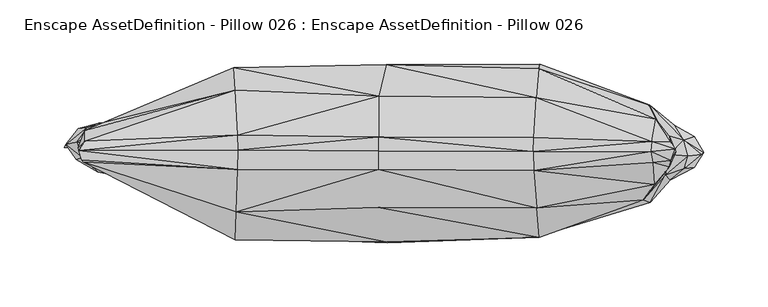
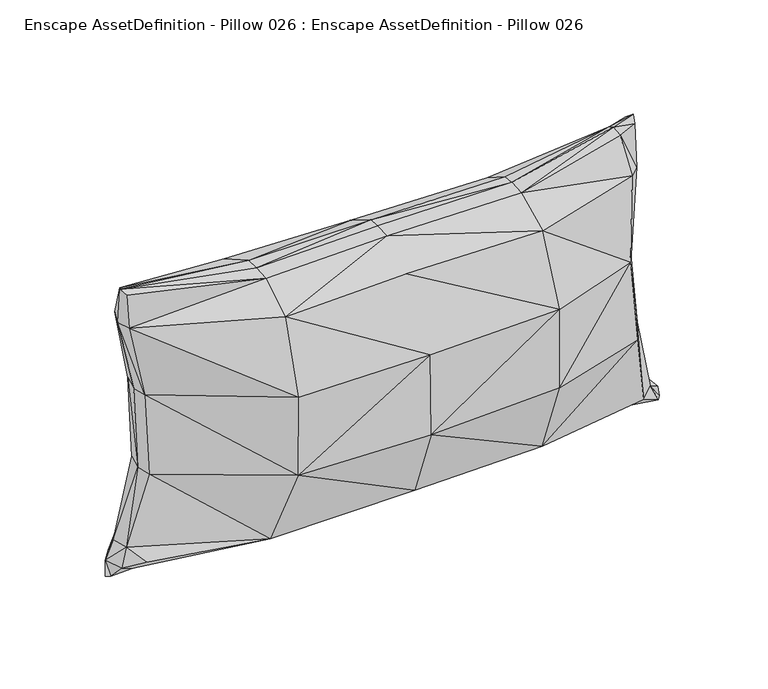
"""IFC4 building model written with IfcOpenShell, lengths in millimetres: geographic element geometry, Enscape AssetDefinition - Pillow 026 : Enscape AssetDefinition - Pillow 026."""

from ifc_helpers import new_model, si_unit, origin, place, context, project, spatial, triangles, source, transform, mapped, element, save


def enscape_assetdefinition_pillow_026_enscape_assetdefinition_aefeb3f9(model_context):
    return source(origin(), model_context, "Body", "Tessellation", [
        triangles([(-236.9719999, -4.4089997, 269.7750122), (-115.1990004, -11.7059999, 247.7300097), (-5.7319999, -11.8020004, 249.9819979), (-115.1499935, 3.325, 248.7500055), (-239.2359969, 2.8250002, 271.8780088), (-234.3889998, 10.5039998, 267.1580026), (114.7880062, 2.267, 250.2849954), (-5.7199997, 2.8160002, 250.943985), (-5.6269997, 45.2899999, 230.0950032), (-5.6520005, 13.4039999, 250.2970041), (-115.3409975, 15.014, 248.8819924), (-117.425, 50.0320024, 229.5210012), (-234.3509934, 18.6369995, 239.0740155), (115.1079994, 13.156, 248.8279986), (207.1289995, 9.9819999, 266.3109976), (117.1910027, 44.4220024, 228.5429904), (0.384, 69.9360019, 168.2850042), (118.9030076, 66.8089989, 168.1989993), (0.912, 69.7740023, 91.9160011), (119.7679984, 70.3869964, 91.8299962), (117.9570079, 42.4689966, 12.9919997), (-118.354004, 67.7769994, 167.7470102), (-117.5549975, 67.0049989, 91.3790063), (-127.6990005, 35.5109979, 11.4100003), (1.863, 39.4089999, 13.2859998), (116.4740043, 4.4789999, 0.605), (119.2450016, -37.744998, 20.9989999), (-130.9109955, 4.2369998, 0.294), (2.0029999, 4.3669999, 0.461), (3.8789999, -38.3530005, 19.5549996), (-124.1550035, -33.799999, 15.5870005), (-226.5240003, 4.387, -0.168), (-224.2850018, -13.5880003, 15.641), (-216.8320046, -4.9059999, 91.8050068), (-116.6260026, -64.3889976, 91.8590006), (0.922, -68.8510027, 92.1000015), (0.449, -68.1950017, 168.2670002), (-219.1870026, 9.0929997, 90.8910001), (-220.2529986, -3.5700001, 168.2440002), (-235.7000027, -6.0389999, 238.8679961), (-116.563997, -44.8119995, 231.3069932), (-117.2980001, -66.5960032, 168.2309923), (-5.8459998, -41.4440001, 231.6800082), (120.1450011, -63.3739978, 91.9850013), (119.5060049, -64.5810008, 168.2139875), (200.5359972, -35.5289996, 167.1570026), (117.4210032, -41.7019967, 230.0709858), (204.6020099, 4.5659998, 0.715), (205.8970071, -37.3109993, 92.2560058), (221.2429999, -19.869999, 19.4300004), (224.9200102, 22.4910009, 16.6149992), (240.1580154, -10.0780004, 6.2409998), (235.196, -1.191, 23.781999), (245.440996, 0.057, 11.2469993), (232.2839866, -10.8510001, 22.841), (247.5090021, 1.402, 0.875), (231.3900005, 2.654, -0.422), (240.0919948, 13.966, 6.3780003), (231.8159919, 11.2449997, 20.9849995), (205.2570026, 38.3680024, 91.8689927), (220.9370048, -0.252, 91.8179965), (217.0929989, 15.3610003, 91.8220025), (213.8830022, 17.7020002, 166.8839996), (204.5059947, 38.4999983, 167.400011), (217.0239987, 0.6469999, 166.8719909), (217.6630041, -15.8520007, 91.774004), (212.7690077, -12.4369998, 166.9230052), (225.4630003, 3.9989999, 275.7199981), (225.6010006, 2.015, 235.3260066), (221.9029887, 9.7239999, 270.8849916), (210.2549897, 27.4320011, 232.1850101), (221.0560019, 13.6219997, 233.1719956), (207.8420011, -6.3629996, 268.084999), (220.6770098, -9.7059994, 234.7660117), (221.7010025, -4.7970001, 272.9549961), (208.7959944, -23.2990003, 239.2609953), (206.3640026, 2.105, 270.82602), (114.9279958, -12.7060002, 249.331002), (-222.3010022, 9.8299993, 167.2940037), (-239.4039917, 5.383, 238.4200038), (-218.7139937, 25.2309999, 167.2379933), (-240.8890028, 9.8539997, 29.0820003), (-215.4510025, 24.6119993, 90.8410031), (-232.7970004, 20.8209993, 27.2630002), (-249.3090012, 7.8130002, 13.5899999), (-241.1729971, -4.0930002, 10.2939994), (-236.3010016, -2.4900001, 27.8299987), (-245.8710025, 4.9319999, -1.077), (-250.4600029, 5.5699998, 0.221), (-239.4700124, 20.0139991, 12.4840002), (-222.9680037, 24.539, 10.3710001)], [[32, 33, 86], [32, 86, 88], [91, 32, 88], [24, 32, 91], [88, 89, 90], [91, 88, 90], [84, 91, 90], [89, 85, 90], [88, 85, 89], [88, 86, 85], [84, 90, 85], [85, 86, 87], [86, 33, 87], [85, 87, 82], [84, 85, 82], [83, 84, 82], [91, 84, 83], [83, 24, 91], [83, 23, 24], [87, 38, 82], [83, 82, 38], [81, 83, 38], [81, 23, 83], [81, 22, 23], [81, 38, 79], [13, 81, 79], [13, 79, 80], [7, 3, 78], [47, 78, 3], [15, 7, 77], [78, 77, 7], [78, 73, 77], [78, 76, 73], [78, 47, 76], [46, 76, 47], [74, 73, 76], [74, 76, 46], [74, 75, 73], [75, 77, 73], [68, 15, 77], [75, 68, 77], [68, 70, 15], [71, 15, 70], [71, 70, 72], [69, 75, 74], [69, 68, 75], [70, 69, 72], [70, 68, 69], [69, 74, 67], [46, 66, 67], [74, 46, 67], [69, 67, 65], [63, 69, 65], [63, 72, 69], [71, 63, 64], [71, 72, 63], [63, 60, 64], [62, 63, 65], [63, 62, 60], [61, 67, 66], [61, 65, 67], [62, 65, 61], [66, 53, 61], [53, 54, 59], [59, 60, 62], [59, 61, 53], [59, 62, 61], [59, 58, 51], [59, 51, 60], [51, 58, 57], [58, 56, 57], [59, 56, 58], [59, 54, 56], [55, 56, 54], [54, 53, 55], [66, 55, 53], [55, 52, 56], [56, 52, 57], [48, 57, 52], [51, 57, 48], [55, 50, 52], [48, 52, 50], [66, 50, 55], [66, 49, 50], [46, 49, 66], [48, 50, 27], [27, 50, 49], [44, 49, 46], [27, 49, 44], [36, 27, 44], [46, 47, 45], [44, 46, 45], [36, 44, 45], [43, 45, 47], [47, 3, 43], [41, 43, 3], [43, 37, 45], [41, 37, 43], [36, 45, 37], [41, 42, 37], [40, 42, 41], [80, 39, 40], [80, 79, 39], [40, 39, 42], [87, 34, 38], [79, 34, 39], [79, 38, 34], [35, 37, 42], [35, 36, 37], [39, 35, 42], [39, 34, 35], [87, 33, 31], [31, 34, 87], [31, 35, 34], [32, 31, 33], [35, 30, 36], [35, 31, 30], [36, 30, 27], [28, 30, 31], [24, 28, 32], [32, 28, 31], [28, 29, 30], [29, 27, 30], [24, 29, 28], [29, 26, 27], [48, 27, 26], [25, 26, 29], [24, 25, 29], [25, 24, 23], [25, 21, 26], [21, 60, 51], [21, 48, 26], [21, 51, 48], [21, 25, 19], [22, 19, 23], [25, 23, 19], [21, 20, 60], [21, 19, 20], [18, 60, 20], [18, 64, 60], [71, 64, 18], [17, 20, 19], [17, 18, 20], [22, 17, 19], [17, 16, 18], [71, 18, 16], [16, 15, 71], [15, 14, 7], [16, 14, 15], [9, 17, 22], [17, 9, 16], [14, 16, 9], [9, 22, 12], [12, 81, 13], [12, 22, 81], [80, 6, 13], [6, 12, 13], [9, 12, 11], [6, 11, 12], [10, 7, 14], [9, 11, 10], [14, 9, 10], [7, 8, 3], [10, 8, 7], [10, 4, 8], [10, 11, 4], [5, 80, 40], [80, 5, 6], [5, 11, 6], [5, 4, 11], [5, 40, 1], [8, 2, 3], [8, 4, 2], [41, 3, 2], [5, 2, 4], [5, 1, 2], [2, 40, 41], [2, 1, 40]]),
    ])


if __name__ == "__main__":
    model = new_model("IFC4")
    model_context = context("Model", 3, world=origin())
    ifc_project = project(units=[si_unit("LENGTHUNIT", "METRE", prefix="MILLI")], contexts=[model_context])
    site = spatial("IfcSite", under=ifc_project)
    building = spatial("IfcBuilding", under=site)
    placement = place(None, origin())
    enscape_assetdefinition_pillow_026_enscape_assetdefinition_shape = enscape_assetdefinition_pillow_026_enscape_assetdefinition_aefeb3f9(model_context)
    element("IfcGeographicElement", 1, ObjectType="Enscape AssetDefinition - Pillow 026 : Enscape AssetDefinition - Pillow 026", at=placement, inside=building, context=model_context, shape_type="MappedRepresentation", body=[
        mapped(enscape_assetdefinition_pillow_026_enscape_assetdefinition_shape, transform((0.0, 0.0, 0.0), x_axis=(1.0, 0.0, 0.0), y_axis=(0.0, 1.0, 0.0), z_axis=(0.0, 0.0, 1.0))),
    ])
    save(model, "model.ifc")
